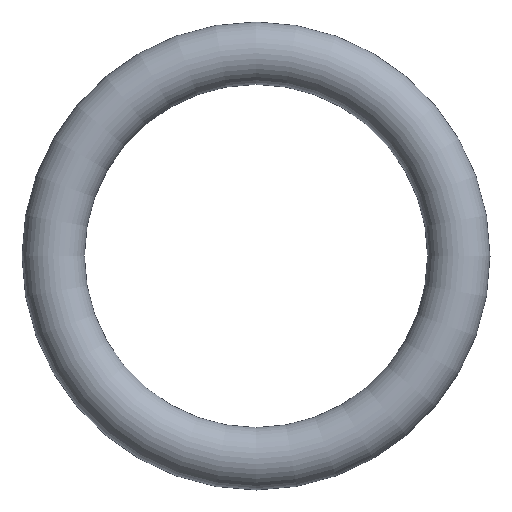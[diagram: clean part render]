
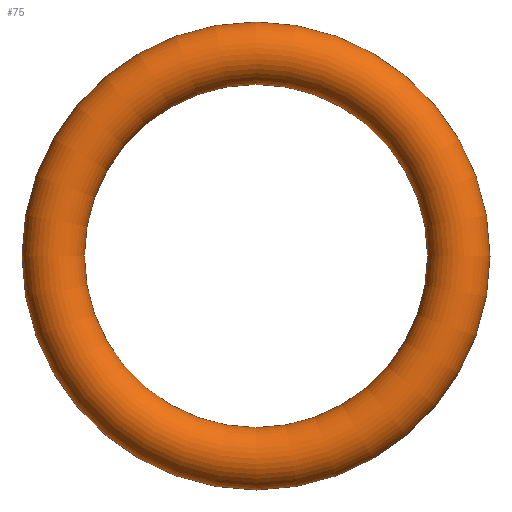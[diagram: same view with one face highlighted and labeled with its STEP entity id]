
A CAD part, front view. The second image highlights one B-rep face of the part: STEP entity #75.
In plain terms, the highlighted toroidal (fillet/blend) face has major radius 6.5 mm and minor radius 1 mm.
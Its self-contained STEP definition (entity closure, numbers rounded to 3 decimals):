
#75 = ADVANCED_FACE( '', ( #77 ), #78, .T. );
#77 = FACE_BOUND( '', #79, .T. );
#78 = TOROIDAL_SURFACE( '', #80, 6.5, 1. );
#79 = VERTEX_LOOP( '', #81 );
#80 = AXIS2_PLACEMENT_3D( '', #82, #83, #84 );
#81 = VERTEX_POINT( '', #85 );
#82 = CARTESIAN_POINT( '', ( 0., 0., 0. ) );
#83 = DIRECTION( '', ( 0., -1., 0. ) );
#84 = DIRECTION( '', ( 0., 0., -1. ) );
#85 = CARTESIAN_POINT( '', ( 0., 0., -7.5 ) );
